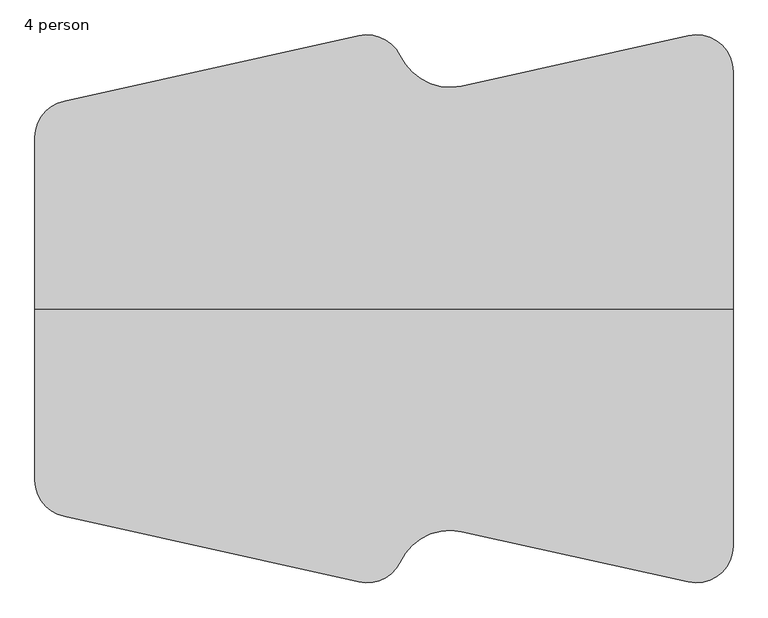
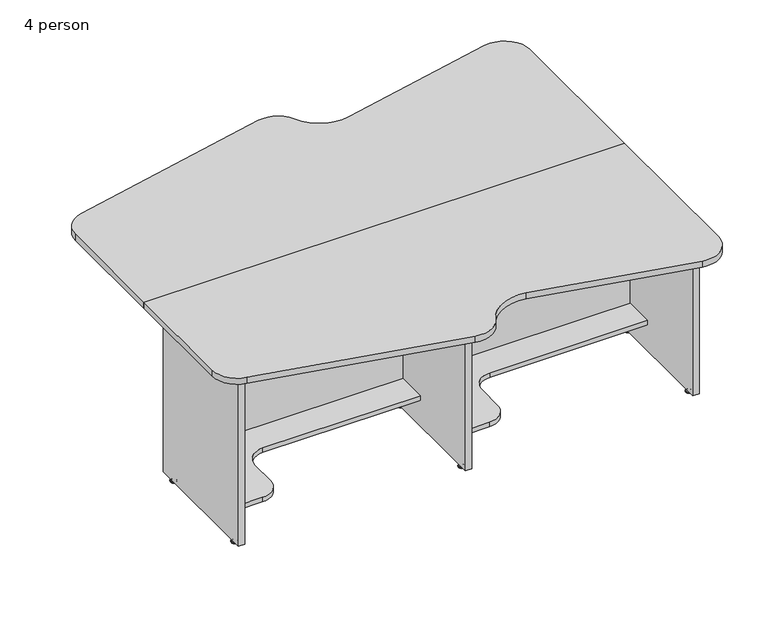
"""IFC4 building model written with IfcOpenShell, lengths in millimetres: furniture geometry, Nova Solutions - Collaboration Table - Keystone_4-5 person : 4 person."""

from ifc_helpers import new_model, si_unit, point, frame, frame_2d, origin, place, context, project, spatial, polyline, circle_curve, ellipse_curve, trimmed, segment, composite_curve, outline, extrude, source, transform, mapped, element, save
from ifc_brep_helpers import plane_surface, cylinder_surface, revolved_surface, advanced_brep


def furniture_4_person_39970b63(model_context):
    return source(origin(), model_context, "Body", "SolidModel", [
        advanced_brep(
        [(3.8776506, 474.3309375, 11.1125), (-2.8, 474.3309375, 11.1125), (-9.4776506, 474.3309375, 11.1125), (3.8776506, 474.3309375, 9.525), (-9.4776506, 474.3309375, 9.525), (9.0855135, 474.3309375, 4.7748687), (-14.6855135, 474.3309375, 4.7748687), (9.9466506, 474.3309375, 3.989419), (-15.5466506, 474.3309375, 3.989419), (9.9466506, 474.3309375, 3.175), (-15.5466506, 474.3309375, 3.175), (9.0959119, 474.3309375, 0.0), (-14.6959119, 474.3309375, 0.0), (-2.8, 474.3309375, 0.0)],
        [
            (0, 1),
            (1, 2),
            (2, 0, circle_curve(frame((-2.8, 474.3309375, 11.1125), z_axis=(0.0, 0.0, 1.0), x_axis=(-1.0, 0.0, 0.0)), 6.6776506)),
            (0, 2, circle_curve(frame((-2.8, 474.3309375, 11.1125), z_axis=(0.0, 0.0, 1.0), x_axis=(-1.0, 0.0, 0.0)), 6.6776506)),
            (3, 0),
            (2, 4),
            (4, 3, circle_curve(frame((-2.8, 474.3309375, 9.525), z_axis=(0.0, 0.0, 1.0), x_axis=(-1.0, 0.0, 0.0)), 6.6776506)),
            (3, 4, circle_curve(frame((-2.8, 474.3309375, 9.525), z_axis=(0.0, 0.0, 1.0), x_axis=(-1.0, 0.0, 0.0)), 6.6776506)),
            (5, 3, circle_curve(frame((10.1320627, 474.3309375, 11.1521822), z_axis=(0.0, 1.0, 0.0), x_axis=(-1.0, 0.0, 0.0)), 6.462615)),
            (4, 6, circle_curve(frame((-15.7320627, 474.3309375, 11.1521822), z_axis=(0.0, 1.0, 0.0), x_axis=(1.0, 0.0, 0.0)), 6.462615)),
            (6, 5, circle_curve(frame((-2.8, 474.3309375, 4.7748687), z_axis=(0.0, 0.0, 1.0), x_axis=(-1.0, 0.0, 0.0)), 11.8855135)),
            (5, 6, circle_curve(frame((-2.8, 474.3309375, 4.7748687), z_axis=(0.0, 0.0, 1.0), x_axis=(-1.0, 0.0, 0.0)), 11.8855135)),
            (7, 5, circle_curve(frame((8.9124632, 474.3309375, 3.7203591), z_axis=(0.0, -1.0, 0.0), x_axis=(-1.0, 0.0, 0.0)), 1.0686145)),
            (6, 8, circle_curve(frame((-14.5124632, 474.3309375, 3.7203591), z_axis=(0.0, -1.0, 0.0), x_axis=(1.0, 0.0, 0.0)), 1.0686145)),
            (8, 7, circle_curve(frame((-2.8, 474.3309375, 3.989419), z_axis=(0.0, 0.0, 1.0), x_axis=(-1.0, 0.0, 0.0)), 12.7466506)),
            (7, 8, circle_curve(frame((-2.8, 474.3309375, 3.989419), z_axis=(0.0, 0.0, 1.0), x_axis=(-1.0, 0.0, 0.0)), 12.7466506)),
            (9, 7),
            (8, 10),
            (10, 9, circle_curve(frame((-2.8, 474.3309375, 3.175), z_axis=(0.0, 0.0, 1.0), x_axis=(-1.0, 0.0, 0.0)), 12.7466506)),
            (9, 10, circle_curve(frame((-2.8, 474.3309375, 3.175), z_axis=(0.0, 0.0, 1.0), x_axis=(-1.0, 0.0, 0.0)), 12.7466506)),
            (11, 9),
            (10, 12),
            (12, 11, circle_curve(frame((-2.8, 474.3309375, 0.0), z_axis=(0.0, 0.0, 1.0), x_axis=(-1.0, 0.0, 0.0)), 11.8959119)),
            (11, 12, circle_curve(frame((-2.8, 474.3309375, 0.0), z_axis=(0.0, 0.0, 1.0), x_axis=(-1.0, 0.0, 0.0)), 11.8959119)),
            (13, 11),
            (12, 13),
        ],
        [
            plane_surface(frame((-2.8, 474.3309375, 11.1125), z_axis=(0.0, 0.0, 1.0), x_axis=(-1.0, 0.0, 0.0))),
            cylinder_surface(frame((-2.8, 474.3309375, 43.2095994), z_axis=(0.0, 0.0, -1.0), x_axis=(-1.0, 0.0, 0.0)), 6.6776506),
            revolved_surface(trimmed(ellipse_curve(frame((-15.7320627, 474.3309375, 11.1521822), z_axis=(0.0, 1.0, 0.0), x_axis=(1.0, 0.0, 0.0)), 6.462615, 6.462615), [point((-9.4776506, 474.3309375, 9.525))], [point((-14.6855135, 474.3309375, 4.7748687))], True, "CARTESIAN"), (-2.8, 474.3309375, 43.2095994), (0.0, 0.0, -1.0)),
            revolved_surface(trimmed(ellipse_curve(frame((-14.5124632, 474.3309375, 3.7203591), z_axis=(0.0, -1.0, 0.0), x_axis=(1.0, 0.0, 0.0)), 1.0686145, 1.0686145), [point((-14.6855135, 474.3309375, 4.7748687))], [point((-15.5466506, 474.3309375, 3.989419))], True, "CARTESIAN"), (-2.8, 474.3309375, 43.2095994), (0.0, 0.0, -1.0)),
            cylinder_surface(frame((-2.8, 474.3309375, 43.2095994), z_axis=(0.0, 0.0, -1.0), x_axis=(-1.0, 0.0, 0.0)), 12.7466506),
            revolved_surface(polyline([(-15.5466506, 474.3309375, 3.175), (-14.6959119, 474.3309375, 0.0)]), (-2.8, 474.3309375, 43.2095994), (0.0, 0.0, -1.0)),
            plane_surface(frame((-2.8, 474.3309375, 0.0), z_axis=(0.0, 0.0, -1.0), x_axis=(-1.0, 0.0, 0.0))),
        ],
        [
            (0, [[1, 2, 3]]),
            (0, [[-2, -1, 4]]),
            (1, [[5, -3, 6, 7]]),
            (1, [[-6, -4, -5, 8]]),
            (2, [[9, -7, 10, 11]]),
            (2, [[-10, -8, -9, 12]]),
            (3, [[13, -11, 14, 15]]),
            (3, [[-14, -12, -13, 16]]),
            (4, [[17, -15, 18, 19]]),
            (4, [[-18, -16, -17, 20]]),
            (5, [[21, -19, 22, 23]]),
            (5, [[-22, -20, -21, 24]]),
            (6, [[25, -23, 26]]),
            (6, [[-26, -24, -25]]),
        ],
    ),
        advanced_brep(
        [(3.8776506, 50.3590625, 11.1125), (-2.8, 50.3590625, 11.1125), (-9.4776506, 50.3590625, 11.1125), (3.8776506, 50.3590625, 9.525), (-9.4776506, 50.3590625, 9.525), (9.0855135, 50.3590625, 4.7748687), (-14.6855135, 50.3590625, 4.7748687), (9.9466506, 50.3590625, 3.989419), (-15.5466506, 50.3590625, 3.989419), (9.9466506, 50.3590625, 3.175), (-15.5466506, 50.3590625, 3.175), (9.0959119, 50.3590625, 0.0), (-14.6959119, 50.3590625, 0.0), (-2.8, 50.3590625, 0.0)],
        [
            (0, 1),
            (1, 2),
            (2, 0, circle_curve(frame((-2.8, 50.3590625, 11.1125), z_axis=(0.0, 0.0, 1.0), x_axis=(-1.0, 0.0, 0.0)), 6.6776506)),
            (0, 2, circle_curve(frame((-2.8, 50.3590625, 11.1125), z_axis=(0.0, 0.0, 1.0), x_axis=(-1.0, 0.0, 0.0)), 6.6776506)),
            (3, 0),
            (2, 4),
            (4, 3, circle_curve(frame((-2.8, 50.3590625, 9.525), z_axis=(0.0, 0.0, 1.0), x_axis=(-1.0, 0.0, 0.0)), 6.6776506)),
            (3, 4, circle_curve(frame((-2.8, 50.3590625, 9.525), z_axis=(0.0, 0.0, 1.0), x_axis=(-1.0, 0.0, 0.0)), 6.6776506)),
            (5, 3, circle_curve(frame((10.1320627, 50.3590625, 11.1521822), z_axis=(0.0, 1.0, 0.0), x_axis=(-1.0, 0.0, 0.0)), 6.462615)),
            (4, 6, circle_curve(frame((-15.7320627, 50.3590625, 11.1521822), z_axis=(0.0, 1.0, 0.0), x_axis=(1.0, 0.0, 0.0)), 6.462615)),
            (6, 5, circle_curve(frame((-2.8, 50.3590625, 4.7748687), z_axis=(0.0, 0.0, 1.0), x_axis=(-1.0, 0.0, 0.0)), 11.8855135)),
            (5, 6, circle_curve(frame((-2.8, 50.3590625, 4.7748687), z_axis=(0.0, 0.0, 1.0), x_axis=(-1.0, 0.0, 0.0)), 11.8855135)),
            (7, 5, circle_curve(frame((8.9124632, 50.3590625, 3.7203591), z_axis=(0.0, -1.0, 0.0), x_axis=(-1.0, 0.0, 0.0)), 1.0686145)),
            (6, 8, circle_curve(frame((-14.5124632, 50.3590625, 3.7203591), z_axis=(0.0, -1.0, 0.0), x_axis=(1.0, 0.0, 0.0)), 1.0686145)),
            (8, 7, circle_curve(frame((-2.8, 50.3590625, 3.989419), z_axis=(0.0, 0.0, 1.0), x_axis=(-1.0, 0.0, 0.0)), 12.7466506)),
            (7, 8, circle_curve(frame((-2.8, 50.3590625, 3.989419), z_axis=(0.0, 0.0, 1.0), x_axis=(-1.0, 0.0, 0.0)), 12.7466506)),
            (9, 7),
            (8, 10),
            (10, 9, circle_curve(frame((-2.8, 50.3590625, 3.175), z_axis=(0.0, 0.0, 1.0), x_axis=(-1.0, 0.0, 0.0)), 12.7466506)),
            (9, 10, circle_curve(frame((-2.8, 50.3590625, 3.175), z_axis=(0.0, 0.0, 1.0), x_axis=(-1.0, 0.0, 0.0)), 12.7466506)),
            (11, 9),
            (10, 12),
            (12, 11, circle_curve(frame((-2.8, 50.3590625, 0.0), z_axis=(0.0, 0.0, 1.0), x_axis=(-1.0, 0.0, 0.0)), 11.8959119)),
            (11, 12, circle_curve(frame((-2.8, 50.3590625, 0.0), z_axis=(0.0, 0.0, 1.0), x_axis=(-1.0, 0.0, 0.0)), 11.8959119)),
            (13, 11),
            (12, 13),
        ],
        [
            plane_surface(frame((-2.8, 50.3590625, 11.1125), z_axis=(0.0, 0.0, 1.0), x_axis=(-1.0, 0.0, 0.0))),
            cylinder_surface(frame((-2.8, 50.3590625, 43.2095994), z_axis=(0.0, 0.0, -1.0), x_axis=(-1.0, 0.0, 0.0)), 6.6776506),
            revolved_surface(trimmed(ellipse_curve(frame((-15.7320627, 50.3590625, 11.1521822), z_axis=(0.0, 1.0, 0.0), x_axis=(1.0, 0.0, 0.0)), 6.462615, 6.462615), [point((-9.4776506, 50.3590625, 9.525))], [point((-14.6855135, 50.3590625, 4.7748687))], True, "CARTESIAN"), (-2.8, 50.3590625, 43.2095994), (0.0, 0.0, -1.0)),
            revolved_surface(trimmed(ellipse_curve(frame((-14.5124632, 50.3590625, 3.7203591), z_axis=(0.0, -1.0, 0.0), x_axis=(1.0, 0.0, 0.0)), 1.0686145, 1.0686145), [point((-14.6855135, 50.3590625, 4.7748687))], [point((-15.5466506, 50.3590625, 3.989419))], True, "CARTESIAN"), (-2.8, 50.3590625, 43.2095994), (0.0, 0.0, -1.0)),
            cylinder_surface(frame((-2.8, 50.3590625, 43.2095994), z_axis=(0.0, 0.0, -1.0), x_axis=(-1.0, 0.0, 0.0)), 12.7466506),
            revolved_surface(polyline([(-15.5466506, 50.3590625, 3.175), (-14.6959119, 50.3590625, 0.0)]), (-2.8, 50.3590625, 43.2095994), (0.0, 0.0, -1.0)),
            plane_surface(frame((-2.8, 50.3590625, 0.0), z_axis=(0.0, 0.0, -1.0), x_axis=(-1.0, 0.0, 0.0))),
        ],
        [
            (0, [[1, 2, 3]]),
            (0, [[-2, -1, 4]]),
            (1, [[5, -3, 6, 7]]),
            (1, [[-6, -4, -5, 8]]),
            (2, [[9, -7, 10, 11]]),
            (2, [[-10, -8, -9, 12]]),
            (3, [[13, -11, 14, 15]]),
            (3, [[-14, -12, -13, 16]]),
            (4, [[17, -15, 18, 19]]),
            (4, [[-18, -16, -17, 20]]),
            (5, [[21, -19, 22, 23]]),
            (5, [[-22, -20, -21, 24]]),
            (6, [[25, -23, 26]]),
            (6, [[-26, -24, -25]]),
        ],
    ),
        extrude(outline(polyline([(10.05, 1.345), (-15.65, 1.345), (-15.65, 523.345), (10.05, 523.345), (10.05, 1.345)])), frame((0.0, 0.0, 15.6), z_axis=(0.0, 0.0, 1.0), x_axis=(1.0, 0.0, 0.0)), (0.0, 0.0, 1.0), 720.7),
        extrude(outline(composite_curve([segment(polyline([(924.25, 0.0), (-1006.1251452, 0.0), (-1006.1251452, 474.4632633)]), True, "CONTINUOUS"), segment(trimmed(circle_curve(frame_2d((-904.6251452, 474.4632633)), 101.5), [point((-1006.1251452, 474.4632633))], [point((-923.5758236, 574.1784667))], False, "CARTESIAN"), True, "CONTINUOUS"), segment(polyline([(-923.5758236, 574.1784667), (-110.0827884, 755.6229945)]), True, "CONTINUOUS"), segment(trimmed(circle_curve(frame_2d((-87.9867994, 656.5572725)), 101.5), [point((-110.0827884, 755.6229945))], [point((2.6149334, 702.3128843))], False, "CARTESIAN"), True, "CONTINUOUS"), segment(trimmed(circle_curve(frame_2d((141.2930311, 765.5121345)), 152.4), [point((2.6149334, 702.3128843))], [point((174.2784283, 616.724623))], True, "CARTESIAN"), True, "CONTINUOUS"), segment(polyline([(174.2784283, 616.724623), (800.7813792, 755.6169834)]), True, "CONTINUOUS"), segment(trimmed(circle_curve(frame_2d((822.75, 656.5229386)), 101.5), [point((800.7813792, 755.6169834))], [point((924.25, 656.5229386))], False, "CARTESIAN"), True, "CONTINUOUS"), segment(polyline([(924.25, 656.5229386), (924.25, 0.0)]), True, "CONTINUOUS")], self_intersect=False)), frame((0.0, 0.0, 736.3), z_axis=(0.0, 0.0, 1.0), x_axis=(1.0, 0.0, 0.0)), (0.0, 0.0, 1.0), 25.7),
        extrude(outline(polyline([(736.3, 897.15), (736.3, 10.05), (507.4, 10.05), (507.4, 181.05), (145.5, 181.05), (145.5, 897.15), (736.3, 897.15)])), frame((0.0, -88.545, 0.0), z_axis=(0.0, 1.0, 0.0), x_axis=(0.0, 0.0, 1.0)), (0.0, 0.0, 1.0), 19.2),
        extrude(outline(composite_curve([segment(polyline([(897.15, -14.045), (897.15, -210.345), (264.05, -210.345)]), True, "CONTINUOUS"), segment(trimmed(circle_curve(frame_2d((264.05, -286.545)), 76.2), [point((264.05, -210.345))], [point((187.85, -286.545))], True, "CARTESIAN"), True, "CONTINUOUS"), segment(polyline([(187.85, -286.545), (187.85, -393.7075)]), True, "CONTINUOUS"), segment(trimmed(circle_curve(frame_2d((111.65, -393.7075)), 76.2), [point((187.85, -393.7075))], [point((111.65, -469.9075))], False, "CARTESIAN"), True, "CONTINUOUS"), segment(polyline([(111.65, -469.9075), (10.05, -469.9075), (10.05, -14.045), (897.15, -14.045)]), True, "CONTINUOUS")], self_intersect=False)), frame((0.0, 0.0, 126.3), z_axis=(0.0, 0.0, 1.0), x_axis=(1.0, 0.0, 0.0)), (0.0, 0.0, 1.0), 19.2),
        advanced_brep(
        [(916.6776506, -474.3309375, 11.1125), (903.3223494, -474.3309375, 11.1125), (910.0, -474.3309375, 11.1125), (916.6776506, -474.3309375, 9.525), (903.3223494, -474.3309375, 9.525), (921.8855135, -474.3309375, 4.7748687), (898.1144865, -474.3309375, 4.7748687), (922.7466506, -474.3309375, 3.989419), (897.2533494, -474.3309375, 3.989419), (922.7466506, -474.3309375, 3.175), (897.2533494, -474.3309375, 3.175), (921.8959119, -474.3309375, 0.0), (898.1040881, -474.3309375, 0.0), (910.0, -474.3309375, 0.0)],
        [
            (0, 1, circle_curve(frame((910.0, -474.3309375, 11.1125), z_axis=(0.0, 0.0, 1.0), x_axis=(-1.0, 0.0, 0.0)), 6.6776506)),
            (1, 2),
            (2, 0),
            (1, 0, circle_curve(frame((910.0, -474.3309375, 11.1125), z_axis=(0.0, 0.0, 1.0), x_axis=(-1.0, 0.0, 0.0)), 6.6776506)),
            (3, 4, circle_curve(frame((910.0, -474.3309375, 9.525), z_axis=(0.0, 0.0, 1.0), x_axis=(-1.0, 0.0, 0.0)), 6.6776506)),
            (4, 1),
            (0, 3),
            (4, 3, circle_curve(frame((910.0, -474.3309375, 9.525), z_axis=(0.0, 0.0, 1.0), x_axis=(-1.0, 0.0, 0.0)), 6.6776506)),
            (5, 6, circle_curve(frame((910.0, -474.3309375, 4.7748687), z_axis=(0.0, 0.0, 1.0), x_axis=(-1.0, 0.0, 0.0)), 11.8855135)),
            (6, 4, circle_curve(frame((897.0679373, -474.3309375, 11.1521822), z_axis=(0.0, -1.0, 0.0), x_axis=(1.0, 0.0, 0.0)), 6.462615)),
            (3, 5, circle_curve(frame((922.9320627, -474.3309375, 11.1521822), z_axis=(0.0, -1.0, 0.0), x_axis=(-1.0, 0.0, 0.0)), 6.462615)),
            (6, 5, circle_curve(frame((910.0, -474.3309375, 4.7748687), z_axis=(0.0, 0.0, 1.0), x_axis=(-1.0, 0.0, 0.0)), 11.8855135)),
            (7, 8, circle_curve(frame((910.0, -474.3309375, 3.989419), z_axis=(0.0, 0.0, 1.0), x_axis=(-1.0, 0.0, 0.0)), 12.7466506)),
            (8, 6, circle_curve(frame((898.2875368, -474.3309375, 3.7203591), z_axis=(0.0, 1.0, 0.0), x_axis=(1.0, 0.0, 0.0)), 1.0686145)),
            (5, 7, circle_curve(frame((921.7124632, -474.3309375, 3.7203591), z_axis=(0.0, 1.0, 0.0), x_axis=(-1.0, 0.0, 0.0)), 1.0686145)),
            (8, 7, circle_curve(frame((910.0, -474.3309375, 3.989419), z_axis=(0.0, 0.0, 1.0), x_axis=(-1.0, 0.0, 0.0)), 12.7466506)),
            (9, 10, circle_curve(frame((910.0, -474.3309375, 3.175), z_axis=(0.0, 0.0, 1.0), x_axis=(-1.0, 0.0, 0.0)), 12.7466506)),
            (10, 8),
            (7, 9),
            (10, 9, circle_curve(frame((910.0, -474.3309375, 3.175), z_axis=(0.0, 0.0, 1.0), x_axis=(-1.0, 0.0, 0.0)), 12.7466506)),
            (11, 12, circle_curve(frame((910.0, -474.3309375, 0.0), z_axis=(0.0, 0.0, 1.0), x_axis=(-1.0, 0.0, 0.0)), 11.8959119)),
            (12, 10),
            (9, 11),
            (12, 11, circle_curve(frame((910.0, -474.3309375, 0.0), z_axis=(0.0, 0.0, 1.0), x_axis=(-1.0, 0.0, 0.0)), 11.8959119)),
            (13, 12),
            (11, 13),
        ],
        [
            plane_surface(frame((910.0, -474.3309375, 11.1125), z_axis=(0.0, 0.0, 1.0), x_axis=(-1.0, 0.0, 0.0))),
            cylinder_surface(frame((910.0, -474.3309375, 43.2095994), z_axis=(0.0, 0.0, -1.0), x_axis=(-1.0, 0.0, 0.0)), 6.6776506),
            revolved_surface(trimmed(ellipse_curve(frame((897.0679373, -474.3309375, 11.1521822), z_axis=(0.0, 1.0, 0.0), x_axis=(1.0, 0.0, 0.0)), 6.462615, 6.462615), [point((903.3223494, -474.3309375, 9.525))], [point((898.1144865, -474.3309375, 4.7748687))], True, "CARTESIAN"), (910.0, -474.3309375, 43.2095994), (0.0, 0.0, -1.0)),
            revolved_surface(trimmed(ellipse_curve(frame((898.2875368, -474.3309375, 3.7203591), z_axis=(0.0, -1.0, 0.0), x_axis=(1.0, 0.0, 0.0)), 1.0686145, 1.0686145), [point((898.1144865, -474.3309375, 4.7748687))], [point((897.2533494, -474.3309375, 3.989419))], True, "CARTESIAN"), (910.0, -474.3309375, 43.2095994), (0.0, 0.0, -1.0)),
            cylinder_surface(frame((910.0, -474.3309375, 43.2095994), z_axis=(0.0, 0.0, -1.0), x_axis=(-1.0, 0.0, 0.0)), 12.7466506),
            revolved_surface(polyline([(897.2533494, -474.3309375, 3.175), (898.1040881, -474.3309375, 0.0)]), (910.0, -474.3309375, 43.2095994), (0.0, 0.0, -1.0)),
            plane_surface(frame((910.0, -474.3309375, 0.0), z_axis=(0.0, 0.0, -1.0), x_axis=(-1.0, 0.0, 0.0))),
        ],
        [
            (0, [[1, 2, 3]]),
            (0, [[4, -3, -2]]),
            (1, [[5, 6, -1, 7]]),
            (1, [[8, -7, -4, -6]]),
            (2, [[9, 10, -5, 11]]),
            (2, [[12, -11, -8, -10]]),
            (3, [[13, 14, -9, 15]]),
            (3, [[16, -15, -12, -14]]),
            (4, [[17, 18, -13, 19]]),
            (4, [[20, -19, -16, -18]]),
            (5, [[21, 22, -17, 23]]),
            (5, [[24, -23, -20, -22]]),
            (6, [[25, -21, 26]]),
            (6, [[-26, -24, -25]]),
        ],
    ),
        advanced_brep(
        [(916.6776506, -50.3590625, 11.1125), (903.3223494, -50.3590625, 11.1125), (910.0, -50.3590625, 11.1125), (916.6776506, -50.3590625, 9.525), (903.3223494, -50.3590625, 9.525), (921.8855135, -50.3590625, 4.7748687), (898.1144865, -50.3590625, 4.7748687), (922.7466506, -50.3590625, 3.989419), (897.2533494, -50.3590625, 3.989419), (922.7466506, -50.3590625, 3.175), (897.2533494, -50.3590625, 3.175), (921.8959119, -50.3590625, 0.0), (898.1040881, -50.3590625, 0.0), (910.0, -50.3590625, 0.0)],
        [
            (0, 1, circle_curve(frame((910.0, -50.3590625, 11.1125), z_axis=(0.0, 0.0, 1.0), x_axis=(-1.0, 0.0, 0.0)), 6.6776506)),
            (1, 2),
            (2, 0),
            (1, 0, circle_curve(frame((910.0, -50.3590625, 11.1125), z_axis=(0.0, 0.0, 1.0), x_axis=(-1.0, 0.0, 0.0)), 6.6776506)),
            (3, 4, circle_curve(frame((910.0, -50.3590625, 9.525), z_axis=(0.0, 0.0, 1.0), x_axis=(-1.0, 0.0, 0.0)), 6.6776506)),
            (4, 1),
            (0, 3),
            (4, 3, circle_curve(frame((910.0, -50.3590625, 9.525), z_axis=(0.0, 0.0, 1.0), x_axis=(-1.0, 0.0, 0.0)), 6.6776506)),
            (5, 6, circle_curve(frame((910.0, -50.3590625, 4.7748687), z_axis=(0.0, 0.0, 1.0), x_axis=(-1.0, 0.0, 0.0)), 11.8855135)),
            (6, 4, circle_curve(frame((897.0679373, -50.3590625, 11.1521822), z_axis=(0.0, -1.0, 0.0), x_axis=(1.0, 0.0, 0.0)), 6.462615)),
            (3, 5, circle_curve(frame((922.9320627, -50.3590625, 11.1521822), z_axis=(0.0, -1.0, 0.0), x_axis=(-1.0, 0.0, 0.0)), 6.462615)),
            (6, 5, circle_curve(frame((910.0, -50.3590625, 4.7748687), z_axis=(0.0, 0.0, 1.0), x_axis=(-1.0, 0.0, 0.0)), 11.8855135)),
            (7, 8, circle_curve(frame((910.0, -50.3590625, 3.989419), z_axis=(0.0, 0.0, 1.0), x_axis=(-1.0, 0.0, 0.0)), 12.7466506)),
            (8, 6, circle_curve(frame((898.2875368, -50.3590625, 3.7203591), z_axis=(0.0, 1.0, 0.0), x_axis=(1.0, 0.0, 0.0)), 1.0686145)),
            (5, 7, circle_curve(frame((921.7124632, -50.3590625, 3.7203591), z_axis=(0.0, 1.0, 0.0), x_axis=(-1.0, 0.0, 0.0)), 1.0686145)),
            (8, 7, circle_curve(frame((910.0, -50.3590625, 3.989419), z_axis=(0.0, 0.0, 1.0), x_axis=(-1.0, 0.0, 0.0)), 12.7466506)),
            (9, 10, circle_curve(frame((910.0, -50.3590625, 3.175), z_axis=(0.0, 0.0, 1.0), x_axis=(-1.0, 0.0, 0.0)), 12.7466506)),
            (10, 8),
            (7, 9),
            (10, 9, circle_curve(frame((910.0, -50.3590625, 3.175), z_axis=(0.0, 0.0, 1.0), x_axis=(-1.0, 0.0, 0.0)), 12.7466506)),
            (11, 12, circle_curve(frame((910.0, -50.3590625, 0.0), z_axis=(0.0, 0.0, 1.0), x_axis=(-1.0, 0.0, 0.0)), 11.8959119)),
            (12, 10),
            (9, 11),
            (12, 11, circle_curve(frame((910.0, -50.3590625, 0.0), z_axis=(0.0, 0.0, 1.0), x_axis=(-1.0, 0.0, 0.0)), 11.8959119)),
            (13, 12),
            (11, 13),
        ],
        [
            plane_surface(frame((910.0, -50.3590625, 11.1125), z_axis=(0.0, 0.0, 1.0), x_axis=(-1.0, 0.0, 0.0))),
            cylinder_surface(frame((910.0, -50.3590625, 43.2095994), z_axis=(0.0, 0.0, -1.0), x_axis=(-1.0, 0.0, 0.0)), 6.6776506),
            revolved_surface(trimmed(ellipse_curve(frame((897.0679373, -50.3590625, 11.1521822), z_axis=(0.0, 1.0, 0.0), x_axis=(1.0, 0.0, 0.0)), 6.462615, 6.462615), [point((903.3223494, -50.3590625, 9.525))], [point((898.1144865, -50.3590625, 4.7748687))], True, "CARTESIAN"), (910.0, -50.3590625, 43.2095994), (0.0, 0.0, -1.0)),
            revolved_surface(trimmed(ellipse_curve(frame((898.2875368, -50.3590625, 3.7203591), z_axis=(0.0, -1.0, 0.0), x_axis=(1.0, 0.0, 0.0)), 1.0686145, 1.0686145), [point((898.1144865, -50.3590625, 4.7748687))], [point((897.2533494, -50.3590625, 3.989419))], True, "CARTESIAN"), (910.0, -50.3590625, 43.2095994), (0.0, 0.0, -1.0)),
            cylinder_surface(frame((910.0, -50.3590625, 43.2095994), z_axis=(0.0, 0.0, -1.0), x_axis=(-1.0, 0.0, 0.0)), 12.7466506),
            revolved_surface(polyline([(897.2533494, -50.3590625, 3.175), (898.1040881, -50.3590625, 0.0)]), (910.0, -50.3590625, 43.2095994), (0.0, 0.0, -1.0)),
            plane_surface(frame((910.0, -50.3590625, 0.0), z_axis=(0.0, 0.0, -1.0), x_axis=(-1.0, 0.0, 0.0))),
        ],
        [
            (0, [[1, 2, 3]]),
            (0, [[4, -3, -2]]),
            (1, [[5, 6, -1, 7]]),
            (1, [[8, -7, -4, -6]]),
            (2, [[9, 10, -5, 11]]),
            (2, [[12, -11, -8, -10]]),
            (3, [[13, 14, -9, 15]]),
            (3, [[16, -15, -12, -14]]),
            (4, [[17, 18, -13, 19]]),
            (4, [[20, -19, -16, -18]]),
            (5, [[21, 22, -17, 23]]),
            (5, [[24, -23, -20, -22]]),
            (6, [[25, -21, 26]]),
            (6, [[-26, -24, -25]]),
        ],
    ),
        extrude(outline(polyline([(922.85, -1.345), (922.85, -523.345), (897.15, -523.345), (897.15, -1.345), (922.85, -1.345)])), frame((0.0, 0.0, 15.6), z_axis=(0.0, 0.0, 1.0), x_axis=(1.0, 0.0, 0.0)), (0.0, 0.0, 1.0), 720.7),
        extrude(outline(polyline([(145.5, -15.65), (736.3, -15.65), (736.3, -902.85), (507.4, -902.85), (507.4, -731.85), (145.5, -731.85), (145.5, -15.65)])), frame((0.0, -88.545, 0.0), z_axis=(0.0, 1.0, 0.0), x_axis=(0.0, 0.0, 1.0)), (0.0, 0.0, 1.0), 19.2),
        extrude(outline(composite_curve([segment(polyline([(-902.85, -469.9075), (-902.85, -14.045), (-15.65, -14.045), (-15.65, -210.345), (-648.85, -210.345)]), True, "CONTINUOUS"), segment(trimmed(circle_curve(frame_2d((-648.85, -286.545)), 76.2), [point((-648.85, -210.345))], [point((-725.05, -286.545))], True, "CARTESIAN"), True, "CONTINUOUS"), segment(polyline([(-725.05, -286.545), (-725.05, -393.7075)]), True, "CONTINUOUS"), segment(trimmed(circle_curve(frame_2d((-801.25, -393.7075)), 76.2), [point((-725.05, -393.7075))], [point((-801.25, -469.9075))], False, "CARTESIAN"), True, "CONTINUOUS"), segment(polyline([(-801.25, -469.9075), (-902.85, -469.9075)]), True, "CONTINUOUS")], self_intersect=False)), frame((0.0, 0.0, 126.3), z_axis=(0.0, 0.0, 1.0), x_axis=(1.0, 0.0, 0.0)), (0.0, 0.0, 1.0), 19.2),
        advanced_brep(
        [(-922.3776506, -474.3309375, 11.1125), (-915.7, -474.3309375, 11.1125), (-909.0223494, -474.3309375, 11.1125), (-922.3776506, -474.3309375, 9.525), (-909.0223494, -474.3309375, 9.525), (-927.5855135, -474.3309375, 4.7748687), (-903.8144865, -474.3309375, 4.7748687), (-928.4466506, -474.3309375, 3.989419), (-902.9533494, -474.3309375, 3.989419), (-928.4466506, -474.3309375, 3.175), (-902.9533494, -474.3309375, 3.175), (-927.5959119, -474.3309375, 0.0), (-903.8040881, -474.3309375, 0.0), (-915.7, -474.3309375, 0.0)],
        [
            (0, 1),
            (1, 2),
            (2, 0, circle_curve(frame((-915.7, -474.3309375, 11.1125), z_axis=(0.0, 0.0, 1.0), x_axis=(1.0, 0.0, 0.0)), 6.6776506)),
            (0, 2, circle_curve(frame((-915.7, -474.3309375, 11.1125), z_axis=(0.0, 0.0, 1.0), x_axis=(1.0, 0.0, 0.0)), 6.6776506)),
            (3, 0),
            (2, 4),
            (4, 3, circle_curve(frame((-915.7, -474.3309375, 9.525), z_axis=(0.0, 0.0, 1.0), x_axis=(1.0, 0.0, 0.0)), 6.6776506)),
            (3, 4, circle_curve(frame((-915.7, -474.3309375, 9.525), z_axis=(0.0, 0.0, 1.0), x_axis=(1.0, 0.0, 0.0)), 6.6776506)),
            (5, 3, circle_curve(frame((-928.6320627, -474.3309375, 11.1521822), z_axis=(0.0, -1.0, 0.0), x_axis=(1.0, 0.0, 0.0)), 6.462615)),
            (4, 6, circle_curve(frame((-902.7679373, -474.3309375, 11.1521822), z_axis=(0.0, -1.0, 0.0), x_axis=(-1.0, 0.0, 0.0)), 6.462615)),
            (6, 5, circle_curve(frame((-915.7, -474.3309375, 4.7748687), z_axis=(0.0, 0.0, 1.0), x_axis=(1.0, 0.0, 0.0)), 11.8855135)),
            (5, 6, circle_curve(frame((-915.7, -474.3309375, 4.7748687), z_axis=(0.0, 0.0, 1.0), x_axis=(1.0, 0.0, 0.0)), 11.8855135)),
            (7, 5, circle_curve(frame((-927.4124632, -474.3309375, 3.7203591), z_axis=(0.0, 1.0, 0.0), x_axis=(1.0, 0.0, 0.0)), 1.0686145)),
            (6, 8, circle_curve(frame((-903.9875368, -474.3309375, 3.7203591), z_axis=(0.0, 1.0, 0.0), x_axis=(-1.0, 0.0, 0.0)), 1.0686145)),
            (8, 7, circle_curve(frame((-915.7, -474.3309375, 3.989419), z_axis=(0.0, 0.0, 1.0), x_axis=(1.0, 0.0, 0.0)), 12.7466506)),
            (7, 8, circle_curve(frame((-915.7, -474.3309375, 3.989419), z_axis=(0.0, 0.0, 1.0), x_axis=(1.0, 0.0, 0.0)), 12.7466506)),
            (9, 7),
            (8, 10),
            (10, 9, circle_curve(frame((-915.7, -474.3309375, 3.175), z_axis=(0.0, 0.0, 1.0), x_axis=(1.0, 0.0, 0.0)), 12.7466506)),
            (9, 10, circle_curve(frame((-915.7, -474.3309375, 3.175), z_axis=(0.0, 0.0, 1.0), x_axis=(1.0, 0.0, 0.0)), 12.7466506)),
            (11, 9),
            (10, 12),
            (12, 11, circle_curve(frame((-915.7, -474.3309375, 0.0), z_axis=(0.0, 0.0, 1.0), x_axis=(1.0, 0.0, 0.0)), 11.8959119)),
            (11, 12, circle_curve(frame((-915.7, -474.3309375, 0.0), z_axis=(0.0, 0.0, 1.0), x_axis=(1.0, 0.0, 0.0)), 11.8959119)),
            (13, 11),
            (12, 13),
        ],
        [
            plane_surface(frame((-915.7, -474.3309375, 11.1125), z_axis=(0.0, 0.0, 1.0), x_axis=(1.0, 0.0, 0.0))),
            cylinder_surface(frame((-915.7, -474.3309375, 43.2095994), z_axis=(0.0, 0.0, -1.0), x_axis=(1.0, 0.0, 0.0)), 6.6776506),
            revolved_surface(trimmed(ellipse_curve(frame((-902.7679373, -474.3309375, 11.1521822), z_axis=(0.0, -1.0, 0.0), x_axis=(-1.0, 0.0, 0.0)), 6.462615, 6.462615), [point((-909.0223494, -474.3309375, 9.525))], [point((-903.8144865, -474.3309375, 4.7748687))], True, "CARTESIAN"), (-915.7, -474.3309375, 43.2095994), (0.0, 0.0, -1.0)),
            revolved_surface(trimmed(ellipse_curve(frame((-903.9875368, -474.3309375, 3.7203591), z_axis=(0.0, 1.0, 0.0), x_axis=(-1.0, 0.0, 0.0)), 1.0686145, 1.0686145), [point((-903.8144865, -474.3309375, 4.7748687))], [point((-902.9533494, -474.3309375, 3.989419))], True, "CARTESIAN"), (-915.7, -474.3309375, 43.2095994), (0.0, 0.0, -1.0)),
            cylinder_surface(frame((-915.7, -474.3309375, 43.2095994), z_axis=(0.0, 0.0, -1.0), x_axis=(1.0, 0.0, 0.0)), 12.7466506),
            revolved_surface(polyline([(-902.9533494, -474.3309375, 3.175), (-903.8040881, -474.3309375, 0.0)]), (-915.7, -474.3309375, 43.2095994), (0.0, 0.0, -1.0)),
            plane_surface(frame((-915.7, -474.3309375, 0.0), z_axis=(0.0, 0.0, -1.0), x_axis=(1.0, 0.0, 0.0))),
        ],
        [
            (0, [[1, 2, 3]]),
            (0, [[-2, -1, 4]]),
            (1, [[5, -3, 6, 7]]),
            (1, [[-6, -4, -5, 8]]),
            (2, [[9, -7, 10, 11]]),
            (2, [[-10, -8, -9, 12]]),
            (3, [[13, -11, 14, 15]]),
            (3, [[-14, -12, -13, 16]]),
            (4, [[17, -15, 18, 19]]),
            (4, [[-18, -16, -17, 20]]),
            (5, [[21, -19, 22, 23]]),
            (5, [[-22, -20, -21, 24]]),
            (6, [[25, -23, 26]]),
            (6, [[-26, -24, -25]]),
        ],
    ),
        advanced_brep(
        [(-922.3776506, -50.3590625, 11.1125), (-915.7, -50.3590625, 11.1125), (-909.0223494, -50.3590625, 11.1125), (-922.3776506, -50.3590625, 9.525), (-909.0223494, -50.3590625, 9.525), (-927.5855135, -50.3590625, 4.7748687), (-903.8144865, -50.3590625, 4.7748687), (-928.4466506, -50.3590625, 3.989419), (-902.9533494, -50.3590625, 3.989419), (-928.4466506, -50.3590625, 3.175), (-902.9533494, -50.3590625, 3.175), (-927.5959119, -50.3590625, 0.0), (-903.8040881, -50.3590625, 0.0), (-915.7, -50.3590625, 0.0)],
        [
            (0, 1),
            (1, 2),
            (2, 0, circle_curve(frame((-915.7, -50.3590625, 11.1125), z_axis=(0.0, 0.0, 1.0), x_axis=(1.0, 0.0, 0.0)), 6.6776506)),
            (0, 2, circle_curve(frame((-915.7, -50.3590625, 11.1125), z_axis=(0.0, 0.0, 1.0), x_axis=(1.0, 0.0, 0.0)), 6.6776506)),
            (3, 0),
            (2, 4),
            (4, 3, circle_curve(frame((-915.7, -50.3590625, 9.525), z_axis=(0.0, 0.0, 1.0), x_axis=(1.0, 0.0, 0.0)), 6.6776506)),
            (3, 4, circle_curve(frame((-915.7, -50.3590625, 9.525), z_axis=(0.0, 0.0, 1.0), x_axis=(1.0, 0.0, 0.0)), 6.6776506)),
            (5, 3, circle_curve(frame((-928.6320627, -50.3590625, 11.1521822), z_axis=(0.0, -1.0, 0.0), x_axis=(1.0, 0.0, 0.0)), 6.462615)),
            (4, 6, circle_curve(frame((-902.7679373, -50.3590625, 11.1521822), z_axis=(0.0, -1.0, 0.0), x_axis=(-1.0, 0.0, 0.0)), 6.462615)),
            (6, 5, circle_curve(frame((-915.7, -50.3590625, 4.7748687), z_axis=(0.0, 0.0, 1.0), x_axis=(1.0, 0.0, 0.0)), 11.8855135)),
            (5, 6, circle_curve(frame((-915.7, -50.3590625, 4.7748687), z_axis=(0.0, 0.0, 1.0), x_axis=(1.0, 0.0, 0.0)), 11.8855135)),
            (7, 5, circle_curve(frame((-927.4124632, -50.3590625, 3.7203591), z_axis=(0.0, 1.0, 0.0), x_axis=(1.0, 0.0, 0.0)), 1.0686145)),
            (6, 8, circle_curve(frame((-903.9875368, -50.3590625, 3.7203591), z_axis=(0.0, 1.0, 0.0), x_axis=(-1.0, 0.0, 0.0)), 1.0686145)),
            (8, 7, circle_curve(frame((-915.7, -50.3590625, 3.989419), z_axis=(0.0, 0.0, 1.0), x_axis=(1.0, 0.0, 0.0)), 12.7466506)),
            (7, 8, circle_curve(frame((-915.7, -50.3590625, 3.989419), z_axis=(0.0, 0.0, 1.0), x_axis=(1.0, 0.0, 0.0)), 12.7466506)),
            (9, 7),
            (8, 10),
            (10, 9, circle_curve(frame((-915.7, -50.3590625, 3.175), z_axis=(0.0, 0.0, 1.0), x_axis=(1.0, 0.0, 0.0)), 12.7466506)),
            (9, 10, circle_curve(frame((-915.7, -50.3590625, 3.175), z_axis=(0.0, 0.0, 1.0), x_axis=(1.0, 0.0, 0.0)), 12.7466506)),
            (11, 9),
            (10, 12),
            (12, 11, circle_curve(frame((-915.7, -50.3590625, 0.0), z_axis=(0.0, 0.0, 1.0), x_axis=(1.0, 0.0, 0.0)), 11.8959119)),
            (11, 12, circle_curve(frame((-915.7, -50.3590625, 0.0), z_axis=(0.0, 0.0, 1.0), x_axis=(1.0, 0.0, 0.0)), 11.8959119)),
            (13, 11),
            (12, 13),
        ],
        [
            plane_surface(frame((-915.7, -50.3590625, 11.1125), z_axis=(0.0, 0.0, 1.0), x_axis=(1.0, 0.0, 0.0))),
            cylinder_surface(frame((-915.7, -50.3590625, 43.2095994), z_axis=(0.0, 0.0, -1.0), x_axis=(1.0, 0.0, 0.0)), 6.6776506),
            revolved_surface(trimmed(ellipse_curve(frame((-902.7679373, -50.3590625, 11.1521822), z_axis=(0.0, -1.0, 0.0), x_axis=(-1.0, 0.0, 0.0)), 6.462615, 6.462615), [point((-909.0223494, -50.3590625, 9.525))], [point((-903.8144865, -50.3590625, 4.7748687))], True, "CARTESIAN"), (-915.7, -50.3590625, 43.2095994), (0.0, 0.0, -1.0)),
            revolved_surface(trimmed(ellipse_curve(frame((-903.9875368, -50.3590625, 3.7203591), z_axis=(0.0, 1.0, 0.0), x_axis=(-1.0, 0.0, 0.0)), 1.0686145, 1.0686145), [point((-903.8144865, -50.3590625, 4.7748687))], [point((-902.9533494, -50.3590625, 3.989419))], True, "CARTESIAN"), (-915.7, -50.3590625, 43.2095994), (0.0, 0.0, -1.0)),
            cylinder_surface(frame((-915.7, -50.3590625, 43.2095994), z_axis=(0.0, 0.0, -1.0), x_axis=(1.0, 0.0, 0.0)), 12.7466506),
            revolved_surface(polyline([(-902.9533494, -50.3590625, 3.175), (-903.8040881, -50.3590625, 0.0)]), (-915.7, -50.3590625, 43.2095994), (0.0, 0.0, -1.0)),
            plane_surface(frame((-915.7, -50.3590625, 0.0), z_axis=(0.0, 0.0, -1.0), x_axis=(1.0, 0.0, 0.0))),
        ],
        [
            (0, [[1, 2, 3]]),
            (0, [[-2, -1, 4]]),
            (1, [[5, -3, 6, 7]]),
            (1, [[-6, -4, -5, 8]]),
            (2, [[9, -7, 10, 11]]),
            (2, [[-10, -8, -9, 12]]),
            (3, [[13, -11, 14, 15]]),
            (3, [[-14, -12, -13, 16]]),
            (4, [[17, -15, 18, 19]]),
            (4, [[-18, -16, -17, 20]]),
            (5, [[21, -19, 22, 23]]),
            (5, [[-22, -20, -21, 24]]),
            (6, [[25, -23, 26]]),
            (6, [[-26, -24, -25]]),
        ],
    ),
        extrude(outline(polyline([(-928.55, -1.345), (-902.85, -1.345), (-902.85, -523.345), (-928.55, -523.345), (-928.55, -1.345)])), frame((0.0, 0.0, 15.6), z_axis=(0.0, 0.0, 1.0), x_axis=(1.0, 0.0, 0.0)), (0.0, 0.0, 1.0), 720.7),
        advanced_brep(
        [(3.8776506, -474.3309375, 11.1125), (-9.4776506, -474.3309375, 11.1125), (-2.8, -474.3309375, 11.1125), (3.8776506, -474.3309375, 9.525), (-9.4776506, -474.3309375, 9.525), (9.0855135, -474.3309375, 4.7748687), (-14.6855135, -474.3309375, 4.7748687), (9.9466506, -474.3309375, 3.989419), (-15.5466506, -474.3309375, 3.989419), (9.9466506, -474.3309375, 3.175), (-15.5466506, -474.3309375, 3.175), (9.0959119, -474.3309375, 0.0), (-14.6959119, -474.3309375, 0.0), (-2.8, -474.3309375, 0.0)],
        [
            (0, 1, circle_curve(frame((-2.8, -474.3309375, 11.1125), z_axis=(0.0, 0.0, 1.0), x_axis=(-1.0, 0.0, 0.0)), 6.6776506)),
            (1, 2),
            (2, 0),
            (1, 0, circle_curve(frame((-2.8, -474.3309375, 11.1125), z_axis=(0.0, 0.0, 1.0), x_axis=(-1.0, 0.0, 0.0)), 6.6776506)),
            (3, 4, circle_curve(frame((-2.8, -474.3309375, 9.525), z_axis=(0.0, 0.0, 1.0), x_axis=(-1.0, 0.0, 0.0)), 6.6776506)),
            (4, 1),
            (0, 3),
            (4, 3, circle_curve(frame((-2.8, -474.3309375, 9.525), z_axis=(0.0, 0.0, 1.0), x_axis=(-1.0, 0.0, 0.0)), 6.6776506)),
            (5, 6, circle_curve(frame((-2.8, -474.3309375, 4.7748687), z_axis=(0.0, 0.0, 1.0), x_axis=(-1.0, 0.0, 0.0)), 11.8855135)),
            (6, 4, circle_curve(frame((-15.7320627, -474.3309375, 11.1521822), z_axis=(0.0, -1.0, 0.0), x_axis=(1.0, 0.0, 0.0)), 6.462615)),
            (3, 5, circle_curve(frame((10.1320627, -474.3309375, 11.1521822), z_axis=(0.0, -1.0, 0.0), x_axis=(-1.0, 0.0, 0.0)), 6.462615)),
            (6, 5, circle_curve(frame((-2.8, -474.3309375, 4.7748687), z_axis=(0.0, 0.0, 1.0), x_axis=(-1.0, 0.0, 0.0)), 11.8855135)),
            (7, 8, circle_curve(frame((-2.8, -474.3309375, 3.989419), z_axis=(0.0, 0.0, 1.0), x_axis=(-1.0, 0.0, 0.0)), 12.7466506)),
            (8, 6, circle_curve(frame((-14.5124632, -474.3309375, 3.7203591), z_axis=(0.0, 1.0, 0.0), x_axis=(1.0, 0.0, 0.0)), 1.0686145)),
            (5, 7, circle_curve(frame((8.9124632, -474.3309375, 3.7203591), z_axis=(0.0, 1.0, 0.0), x_axis=(-1.0, 0.0, 0.0)), 1.0686145)),
            (8, 7, circle_curve(frame((-2.8, -474.3309375, 3.989419), z_axis=(0.0, 0.0, 1.0), x_axis=(-1.0, 0.0, 0.0)), 12.7466506)),
            (9, 10, circle_curve(frame((-2.8, -474.3309375, 3.175), z_axis=(0.0, 0.0, 1.0), x_axis=(-1.0, 0.0, 0.0)), 12.7466506)),
            (10, 8),
            (7, 9),
            (10, 9, circle_curve(frame((-2.8, -474.3309375, 3.175), z_axis=(0.0, 0.0, 1.0), x_axis=(-1.0, 0.0, 0.0)), 12.7466506)),
            (11, 12, circle_curve(frame((-2.8, -474.3309375, 0.0), z_axis=(0.0, 0.0, 1.0), x_axis=(-1.0, 0.0, 0.0)), 11.8959119)),
            (12, 10),
            (9, 11),
            (12, 11, circle_curve(frame((-2.8, -474.3309375, 0.0), z_axis=(0.0, 0.0, 1.0), x_axis=(-1.0, 0.0, 0.0)), 11.8959119)),
            (13, 12),
            (11, 13),
        ],
        [
            plane_surface(frame((-2.8, -474.3309375, 11.1125), z_axis=(0.0, 0.0, 1.0), x_axis=(-1.0, 0.0, 0.0))),
            cylinder_surface(frame((-2.8, -474.3309375, 43.2095994), z_axis=(0.0, 0.0, -1.0), x_axis=(-1.0, 0.0, 0.0)), 6.6776506),
            revolved_surface(trimmed(ellipse_curve(frame((-15.7320627, -474.3309375, 11.1521822), z_axis=(0.0, 1.0, 0.0), x_axis=(1.0, 0.0, 0.0)), 6.462615, 6.462615), [point((-9.4776506, -474.3309375, 9.525))], [point((-14.6855135, -474.3309375, 4.7748687))], True, "CARTESIAN"), (-2.8, -474.3309375, 43.2095994), (0.0, 0.0, -1.0)),
            revolved_surface(trimmed(ellipse_curve(frame((-14.5124632, -474.3309375, 3.7203591), z_axis=(0.0, -1.0, 0.0), x_axis=(1.0, 0.0, 0.0)), 1.0686145, 1.0686145), [point((-14.6855135, -474.3309375, 4.7748687))], [point((-15.5466506, -474.3309375, 3.989419))], True, "CARTESIAN"), (-2.8, -474.3309375, 43.2095994), (0.0, 0.0, -1.0)),
            cylinder_surface(frame((-2.8, -474.3309375, 43.2095994), z_axis=(0.0, 0.0, -1.0), x_axis=(-1.0, 0.0, 0.0)), 12.7466506),
            revolved_surface(polyline([(-15.5466506, -474.3309375, 3.175), (-14.6959119, -474.3309375, 0.0)]), (-2.8, -474.3309375, 43.2095994), (0.0, 0.0, -1.0)),
            plane_surface(frame((-2.8, -474.3309375, 0.0), z_axis=(0.0, 0.0, -1.0), x_axis=(-1.0, 0.0, 0.0))),
        ],
        [
            (0, [[1, 2, 3]]),
            (0, [[4, -3, -2]]),
            (1, [[5, 6, -1, 7]]),
            (1, [[8, -7, -4, -6]]),
            (2, [[9, 10, -5, 11]]),
            (2, [[12, -11, -8, -10]]),
            (3, [[13, 14, -9, 15]]),
            (3, [[16, -15, -12, -14]]),
            (4, [[17, 18, -13, 19]]),
            (4, [[20, -19, -16, -18]]),
            (5, [[21, 22, -17, 23]]),
            (5, [[24, -23, -20, -22]]),
            (6, [[25, -21, 26]]),
            (6, [[-26, -24, -25]]),
        ],
    ),
        advanced_brep(
        [(3.8776506, -50.3590625, 11.1125), (-9.4776506, -50.3590625, 11.1125), (-2.8, -50.3590625, 11.1125), (3.8776506, -50.3590625, 9.525), (-9.4776506, -50.3590625, 9.525), (9.0855135, -50.3590625, 4.7748687), (-14.6855135, -50.3590625, 4.7748687), (9.9466506, -50.3590625, 3.989419), (-15.5466506, -50.3590625, 3.989419), (9.9466506, -50.3590625, 3.175), (-15.5466506, -50.3590625, 3.175), (9.0959119, -50.3590625, 0.0), (-14.6959119, -50.3590625, 0.0), (-2.8, -50.3590625, 0.0)],
        [
            (0, 1, circle_curve(frame((-2.8, -50.3590625, 11.1125), z_axis=(0.0, 0.0, 1.0), x_axis=(-1.0, 0.0, 0.0)), 6.6776506)),
            (1, 2),
            (2, 0),
            (1, 0, circle_curve(frame((-2.8, -50.3590625, 11.1125), z_axis=(0.0, 0.0, 1.0), x_axis=(-1.0, 0.0, 0.0)), 6.6776506)),
            (3, 4, circle_curve(frame((-2.8, -50.3590625, 9.525), z_axis=(0.0, 0.0, 1.0), x_axis=(-1.0, 0.0, 0.0)), 6.6776506)),
            (4, 1),
            (0, 3),
            (4, 3, circle_curve(frame((-2.8, -50.3590625, 9.525), z_axis=(0.0, 0.0, 1.0), x_axis=(-1.0, 0.0, 0.0)), 6.6776506)),
            (5, 6, circle_curve(frame((-2.8, -50.3590625, 4.7748687), z_axis=(0.0, 0.0, 1.0), x_axis=(-1.0, 0.0, 0.0)), 11.8855135)),
            (6, 4, circle_curve(frame((-15.7320627, -50.3590625, 11.1521822), z_axis=(0.0, -1.0, 0.0), x_axis=(1.0, 0.0, 0.0)), 6.462615)),
            (3, 5, circle_curve(frame((10.1320627, -50.3590625, 11.1521822), z_axis=(0.0, -1.0, 0.0), x_axis=(-1.0, 0.0, 0.0)), 6.462615)),
            (6, 5, circle_curve(frame((-2.8, -50.3590625, 4.7748687), z_axis=(0.0, 0.0, 1.0), x_axis=(-1.0, 0.0, 0.0)), 11.8855135)),
            (7, 8, circle_curve(frame((-2.8, -50.3590625, 3.989419), z_axis=(0.0, 0.0, 1.0), x_axis=(-1.0, 0.0, 0.0)), 12.7466506)),
            (8, 6, circle_curve(frame((-14.5124632, -50.3590625, 3.7203591), z_axis=(0.0, 1.0, 0.0), x_axis=(1.0, 0.0, 0.0)), 1.0686145)),
            (5, 7, circle_curve(frame((8.9124632, -50.3590625, 3.7203591), z_axis=(0.0, 1.0, 0.0), x_axis=(-1.0, 0.0, 0.0)), 1.0686145)),
            (8, 7, circle_curve(frame((-2.8, -50.3590625, 3.989419), z_axis=(0.0, 0.0, 1.0), x_axis=(-1.0, 0.0, 0.0)), 12.7466506)),
            (9, 10, circle_curve(frame((-2.8, -50.3590625, 3.175), z_axis=(0.0, 0.0, 1.0), x_axis=(-1.0, 0.0, 0.0)), 12.7466506)),
            (10, 8),
            (7, 9),
            (10, 9, circle_curve(frame((-2.8, -50.3590625, 3.175), z_axis=(0.0, 0.0, 1.0), x_axis=(-1.0, 0.0, 0.0)), 12.7466506)),
            (11, 12, circle_curve(frame((-2.8, -50.3590625, 0.0), z_axis=(0.0, 0.0, 1.0), x_axis=(-1.0, 0.0, 0.0)), 11.8959119)),
            (12, 10),
            (9, 11),
            (12, 11, circle_curve(frame((-2.8, -50.3590625, 0.0), z_axis=(0.0, 0.0, 1.0), x_axis=(-1.0, 0.0, 0.0)), 11.8959119)),
            (13, 12),
            (11, 13),
        ],
        [
            plane_surface(frame((-2.8, -50.3590625, 11.1125), z_axis=(0.0, 0.0, 1.0), x_axis=(-1.0, 0.0, 0.0))),
            cylinder_surface(frame((-2.8, -50.3590625, 43.2095994), z_axis=(0.0, 0.0, -1.0), x_axis=(-1.0, 0.0, 0.0)), 6.6776506),
            revolved_surface(trimmed(ellipse_curve(frame((-15.7320627, -50.3590625, 11.1521822), z_axis=(0.0, 1.0, 0.0), x_axis=(1.0, 0.0, 0.0)), 6.462615, 6.462615), [point((-9.4776506, -50.3590625, 9.525))], [point((-14.6855135, -50.3590625, 4.7748687))], True, "CARTESIAN"), (-2.8, -50.3590625, 43.2095994), (0.0, 0.0, -1.0)),
            revolved_surface(trimmed(ellipse_curve(frame((-14.5124632, -50.3590625, 3.7203591), z_axis=(0.0, -1.0, 0.0), x_axis=(1.0, 0.0, 0.0)), 1.0686145, 1.0686145), [point((-14.6855135, -50.3590625, 4.7748687))], [point((-15.5466506, -50.3590625, 3.989419))], True, "CARTESIAN"), (-2.8, -50.3590625, 43.2095994), (0.0, 0.0, -1.0)),
            cylinder_surface(frame((-2.8, -50.3590625, 43.2095994), z_axis=(0.0, 0.0, -1.0), x_axis=(-1.0, 0.0, 0.0)), 12.7466506),
            revolved_surface(polyline([(-15.5466506, -50.3590625, 3.175), (-14.6959119, -50.3590625, 0.0)]), (-2.8, -50.3590625, 43.2095994), (0.0, 0.0, -1.0)),
            plane_surface(frame((-2.8, -50.3590625, 0.0), z_axis=(0.0, 0.0, -1.0), x_axis=(-1.0, 0.0, 0.0))),
        ],
        [
            (0, [[1, 2, 3]]),
            (0, [[4, -3, -2]]),
            (1, [[5, 6, -1, 7]]),
            (1, [[8, -7, -4, -6]]),
            (2, [[9, 10, -5, 11]]),
            (2, [[12, -11, -8, -10]]),
            (3, [[13, 14, -9, 15]]),
            (3, [[16, -15, -12, -14]]),
            (4, [[17, 18, -13, 19]]),
            (4, [[20, -19, -16, -18]]),
            (5, [[21, 22, -17, 23]]),
            (5, [[24, -23, -20, -22]]),
            (6, [[25, -21, 26]]),
            (6, [[-26, -24, -25]]),
        ],
    ),
        extrude(outline(polyline([(10.05, -1.345), (10.05, -523.345), (-15.65, -523.345), (-15.65, -1.345), (10.05, -1.345)])), frame((0.0, 0.0, 15.6), z_axis=(0.0, 0.0, 1.0), x_axis=(1.0, 0.0, 0.0)), (0.0, 0.0, 1.0), 720.7),
        extrude(outline(composite_curve([segment(polyline([(924.25, 0.0), (924.25, -656.5229386)]), True, "CONTINUOUS"), segment(trimmed(circle_curve(frame_2d((822.75, -656.5229386)), 101.5), [point((924.25, -656.5229386))], [point((800.7813792, -755.6169834))], False, "CARTESIAN"), True, "CONTINUOUS"), segment(polyline([(800.7813792, -755.6169834), (174.2784283, -616.724623)]), True, "CONTINUOUS"), segment(trimmed(circle_curve(frame_2d((141.2930311, -765.5121345)), 152.4), [point((174.2784283, -616.724623))], [point((2.6149334, -702.3128843))], True, "CARTESIAN"), True, "CONTINUOUS"), segment(trimmed(circle_curve(frame_2d((-87.9867994, -656.5572725)), 101.5), [point((2.6149334, -702.3128843))], [point((-110.0827884, -755.6229945))], False, "CARTESIAN"), True, "CONTINUOUS"), segment(polyline([(-110.0827884, -755.6229945), (-923.5758236, -574.1784667)]), True, "CONTINUOUS"), segment(trimmed(circle_curve(frame_2d((-904.6251452, -474.4632633)), 101.5), [point((-923.5758236, -574.1784667))], [point((-1006.1251452, -474.4632633))], False, "CARTESIAN"), True, "CONTINUOUS"), segment(polyline([(-1006.1251452, -474.4632633), (-1006.1251452, 0.0), (924.25, 0.0)]), True, "CONTINUOUS")], self_intersect=False)), frame((0.0, 0.0, 736.3), z_axis=(0.0, 0.0, 1.0), x_axis=(1.0, 0.0, 0.0)), (0.0, 0.0, 1.0), 25.7),
    ])


if __name__ == "__main__":
    model = new_model("IFC4")
    model_context = context("Model", 3, world=origin())
    ifc_project = project(units=[si_unit("LENGTHUNIT", "METRE", prefix="MILLI")], contexts=[model_context])
    site = spatial("IfcSite", under=ifc_project)
    building = spatial("IfcBuilding", under=site)
    placement = place(None, origin())
    furniture_4_person_shape = furniture_4_person_39970b63(model_context)
    element("IfcFurniture", 1, ObjectType="Nova Solutions - Collaboration Table - Keystone_4-5 person : 4 person", at=placement, inside=building, context=model_context, shape_type="MappedRepresentation", body=[
        mapped(furniture_4_person_shape, transform((0.0, 0.0, 0.0), x_axis=(1.0, 0.0, 0.0), y_axis=(0.0, 1.0, 0.0), z_axis=(0.0, 0.0, 1.0))),
    ])
    save(model, "model.ifc")
